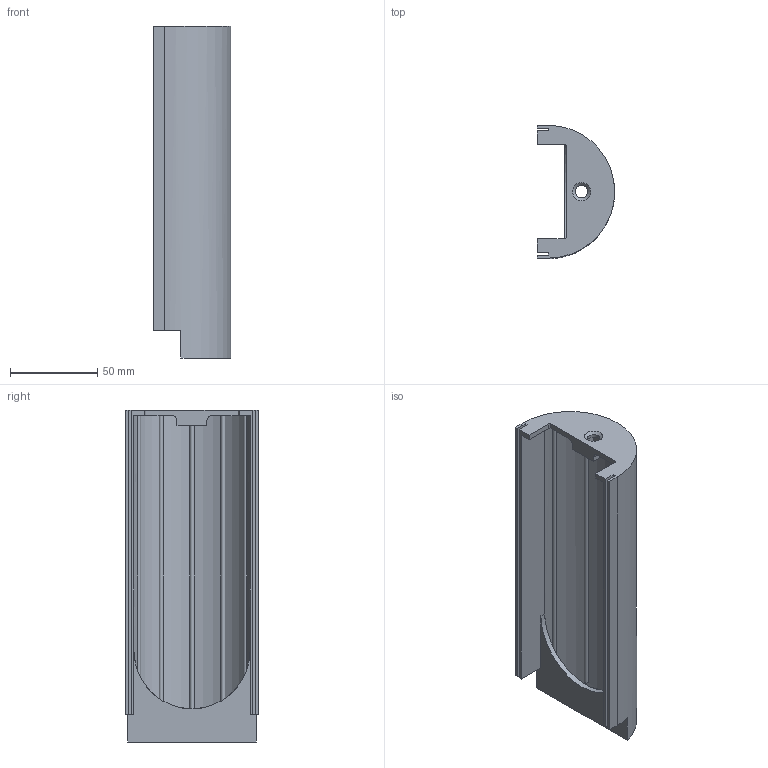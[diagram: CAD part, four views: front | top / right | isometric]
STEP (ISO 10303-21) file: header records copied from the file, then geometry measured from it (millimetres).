
FILE_DESCRIPTION(/* description */ ('Alibre Inc.'),/* implementation_level */ '2;1');
FILE_NAME(/* name */ 'export0',/* time_stamp */ '2014-01-01T18:52:22-05:00',/* author */ (''),/* organization */ (''),/* preprocessor_version */ 'ST-DEVELOPER v14',/* originating_system */ 'Alibre',/* authorisation */ '');
FILE_SCHEMA (('CONFIG_CONTROL_DESIGN'));
Length unit declared in the file: centimetre
Products named in the file (1): ID_1
Bounding box: 44.45 x 76.2 x 190.5 mm (x, y, z)
Volume: 82007.3 mm3; surface area: 63213.7 mm2
Topology: 1 solids, 1 shells, 53 faces, 150 edges, 99 vertices
Faces by surface type: plane 38, cylinder 14, cone 1
Full cylindrical faces by diameter (mm): 7.239 x1
Entity records: 1718 total; most frequent: CARTESIAN_POINT 298, ORIENTED_EDGE 296, DIRECTION 237, EDGE_CURVE 148, VECTOR 105, LINE 105, VERTEX_POINT 99, AXIS2_PLACEMENT_3D 82
